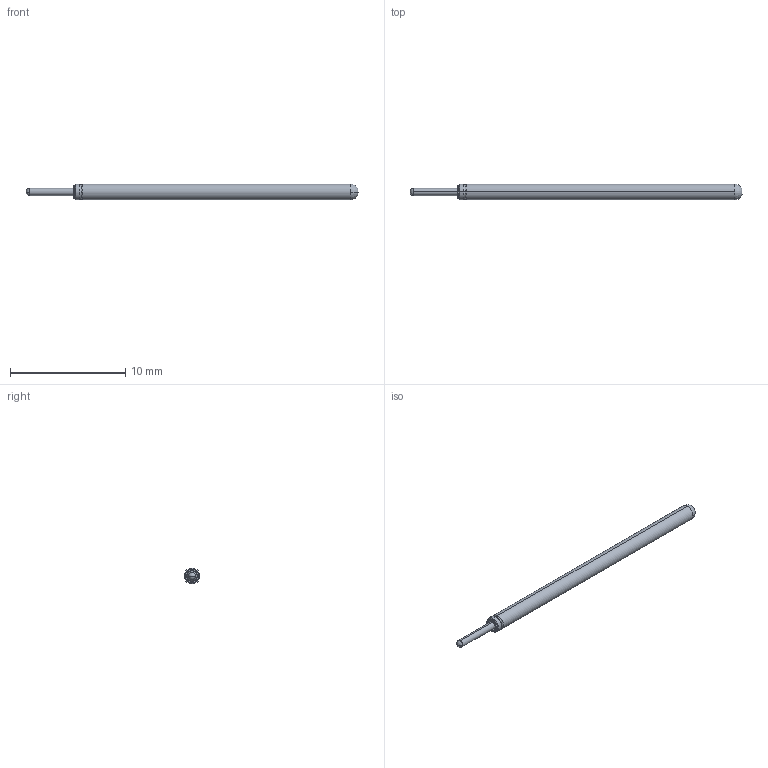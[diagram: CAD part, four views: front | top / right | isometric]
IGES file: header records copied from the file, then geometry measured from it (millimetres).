
Start section: SolidWorks IGES file using analytic representation for surfaces
Global section: file name: Z:\probe solid model mockups\Solidworks models\POGO-25 IGS files\POGO-25J RECD.IGS; native system: SolidWorks 2006 by SolidWorks Corporation; preprocessor: SolidWorks 2006 by SolidWorks Corporation; author: tsakatani; date: 071214.094935; units: inch
Bounding box: 28.78 x 1.37 x 1.37 mm (x, y, z)
Surface area: 127.5 mm2 (no closed solid volume)
Topology: 0 solids, 0 shells, 24 faces, 144 edges, 142 vertices
Faces by surface type: revolution 18, bspline 6
